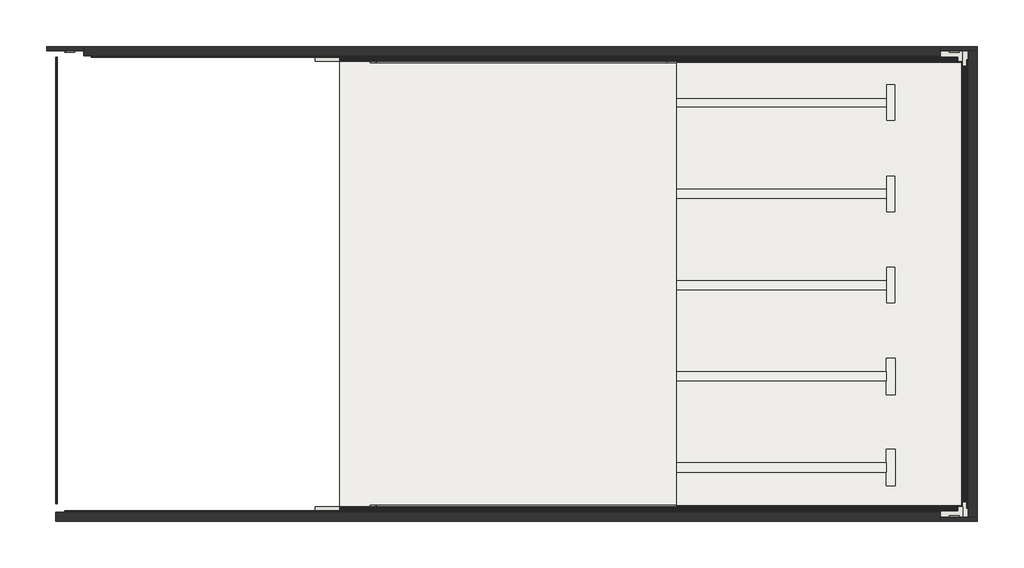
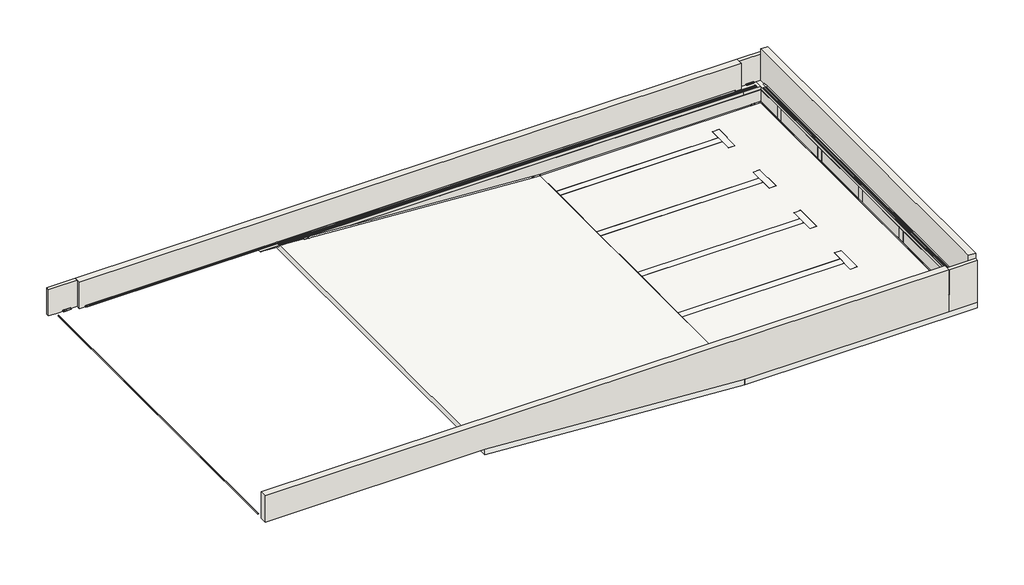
# One storey: 47 slabs, 24 walls.
"""IFC4 building model written with IfcOpenShell, lengths in millimetres."""

from ifc_helpers import new_model, si_unit, frame, origin, place, context, project, spatial, polyline, outline, extrude, faceted_brep, transform, mapped, element, save
from components import slab_adf7b20b, slab_e6a2a24a, slab_c61dfdfc, slab_3fa4a234, slab_2e8b4356, slab_f294360b, slab_5cd8baa9, slab_5a0b4e5f, slab_672f7bec, slab_ea4350df, slab_515da62f, slab_ee71dc46, slab_7202c741, pieza_112_aqua_azul_liso_81c370b3, pieza_112_aqua_azul_liso_8ca1fe8c, pieza_112_aqua_azul_liso_9920d825, pieza_112_aqua_azul_liso_90a9ab43, pieza_112_aqua_azul_liso_9cfd9824, pieza_112_aqua_azul_liso_4210b536, pieza_112_aqua_azul_liso_95a1ca5b, pieza_112_aqua_azul_liso_0d17003f, pieza_112_aqua_azul_liso_7a75cb70, pieza_112_aqua_azul_liso_f3ba676e, pieza_112_aqua_azul_liso_4e644e74, pieza_112_aqua_azul_liso_36658c12, pieza_112_aqua_azul_liso_4123cb8f, pieza_112_aqua_azul_liso_9b5f858b, pieza_112_aqua_azul_liso_815341f7, pieza_112_aqua_azul_liso_8a560736, pieza_112_aqua_azul_liso_735dd935, pieza_112_aqua_azul_liso_746ee73a, pieza_112_aqua_azul_liso_ccd9703d, pieza_112_aqua_azul_liso_ba36763c, pieza_112_aqua_azul_liso_4afd4aa3

model = new_model("IFC4")

# Units and contexts
model_context = context("Model", 3, world=origin())
ifc_project = project(units=[si_unit("LENGTHUNIT", "METRE", prefix="MILLI")], contexts=[model_context])

# Site, building, storey
site = spatial("IfcSite", under=ifc_project)
building = spatial("IfcBuilding", under=site)
storey = spatial("IfcBuildingStorey", under=building, Name="4_NFondo2 -1.8", Elevation=-1800.4)

# Slabs
placement = place(None, origin())
element("IfcSlab", 1, ObjectType="GENÉRICO_LOSA PISCINA_Estructura_20 cm", at=placement, inside=storey, context=model_context, shape_type="SweptSolid", body=[
    extrude(outline(polyline([(-1410.8230402, 15209.434436), (-2010.8230402, 24429.434436), (-1810.4, 24429.434436), (-1210.4, 15209.434436), (-1410.8230402, 15209.434436)])), frame((0.0, -38448.7332692, 0.0), z_axis=(0.0, 1.0, 0.0), x_axis=(0.0, 0.0, 1.0)), (0.0, 0.0, 1.0), 13018.6046614),
])
element("IfcSlab", 2, ObjectType="GENÉRICO_LOSA PISCINA_Estructura_20 cm", at=placement, inside=storey, context=model_context, shape_type="SweptSolid", body=[
    extrude(outline(polyline([(24429.434436, -25430.1286078), (32688.734436, -25430.1286078), (32688.734436, -38448.7332692), (24429.434436, -38448.7332692), (24429.434436, -25430.1286078)])), frame((0.0, 0.0, -2010.4), z_axis=(0.0, 0.0, 1.0), x_axis=(1.0, 0.0, 0.0)), (0.0, 0.0, 1.0), 200.0),
])
element("IfcSlab", 3, ObjectType="Pieza 122 G1_Patrón Recto_Aqua_Azul_Liso", at=placement, inside=storey, context=model_context, shape_type="SweptSolid", body=[
    extrude(outline(polyline([(24440.434436, -37094.4598578), (30190.434436, -37094.4598578), (30190.434436, -37469.4598578), (30440.434436, -37469.4598578), (30440.434436, -36469.4598578), (30190.434436, -36469.4598578), (30190.434436, -36844.4598578), (24440.434436, -36844.4598578), (24440.434436, -34594.477587), (30190.434436, -34594.477587), (30190.434436, -34969.477587), (30440.434436, -34969.477587), (30440.434436, -33969.477587), (30190.434436, -33969.477587), (30190.434436, -34344.477587), (24440.434436, -34344.477587), (24440.434436, -32094.477587), (30190.434436, -32094.477587), (30190.434436, -32469.477587), (30440.434436, -32469.477587), (30440.434436, -31469.477587), (30190.434436, -31469.477587), (30190.434436, -31844.477587), (24440.434436, -31844.477587), (24440.434436, -29594.4598578), (30190.434436, -29594.4598578), (30190.434436, -29969.4598578), (30440.434436, -29969.4598578), (30440.434436, -28969.4598578), (30190.434436, -28969.4598578), (30190.434436, -29344.4598578), (24440.434436, -29344.4598578), (24440.434436, -27094.4598578), (30190.434436, -27094.4598578), (30190.434436, -27469.4598578), (30440.434436, -27469.4598578), (30440.434436, -26469.4598578), (30190.434436, -26469.4598578), (30190.434436, -26844.4598578), (24440.434436, -26844.4598578), (24440.434436, -25867.6080096), (32251.2841759, -25867.6080096), (32251.2841759, -38011.2585288), (24440.434436, -38011.2585288), (24440.434436, -37094.4598578)])), frame((0.0, 0.0, -1809.4), z_axis=(0.0, 0.0, 1.0), x_axis=(1.0, 0.0, 0.0)), (0.0, 0.0, 1.0), 9.0),
])
element("IfcSlab", 4, ObjectType="Pieza 122 G1_Patrón Recto_Aqua_Marino_Liso", at=placement, inside=storey, context=model_context, shape_type="SweptSolid", body=[
    extrude(outline(polyline([(30190.434436, -26844.4598578), (30190.434436, -27094.4598578), (24439.880421, -27094.4598578), (24439.880421, -26844.4598578), (30190.434436, -26844.4598578)])), frame((0.0, 0.0, -1809.4), z_axis=(0.0, 0.0, 1.0), x_axis=(1.0, 0.0, 0.0)), (0.0, 0.0, 1.0), 9.0),
])
element("IfcSlab", 5, ObjectType="Pieza 122 G1_Patrón Recto_Aqua_Marino_Liso", at=placement, inside=storey, context=model_context, shape_type="SweptSolid", body=[
    extrude(outline(polyline([(30440.434436, -26469.4598578), (30440.434436, -27469.4598578), (30190.434436, -27469.4598578), (30190.434436, -26469.4598578), (30440.434436, -26469.4598578)])), frame((0.0, 0.0, -1809.4), z_axis=(0.0, 0.0, 1.0), x_axis=(1.0, 0.0, 0.0)), (0.0, 0.0, 1.0), 9.0),
])
element("IfcSlab", 6, ObjectType="Pieza 122 G1_Patrón Recto_Aqua_Marino_Liso", at=placement, inside=storey, context=model_context, shape_type="SweptSolid", body=[
    extrude(outline(polyline([(30190.434436, -29344.4598578), (30190.434436, -29594.4598578), (24439.880421, -29594.4598578), (24439.880421, -29344.4598578), (30190.434436, -29344.4598578)])), frame((0.0, 0.0, -1809.4), z_axis=(0.0, 0.0, 1.0), x_axis=(1.0, 0.0, 0.0)), (0.0, 0.0, 1.0), 9.0),
])
element("IfcSlab", 7, ObjectType="Pieza 122 G1_Patrón Recto_Aqua_Marino_Liso", at=placement, inside=storey, context=model_context, shape_type="SweptSolid", body=[
    extrude(outline(polyline([(30440.434436, -28969.4598578), (30440.434436, -29969.4598578), (30190.434436, -29969.4598578), (30190.434436, -28969.4598578), (30440.434436, -28969.4598578)])), frame((0.0, 0.0, -1809.4), z_axis=(0.0, 0.0, 1.0), x_axis=(1.0, 0.0, 0.0)), (0.0, 0.0, 1.0), 9.0),
])
element("IfcSlab", 8, ObjectType="Pieza 122 G1_Patrón Recto_Aqua_Marino_Liso", at=placement, inside=storey, context=model_context, shape_type="SweptSolid", body=[
    extrude(outline(polyline([(30190.434436, -31844.477587), (30190.434436, -32094.477587), (24439.880421, -32094.477587), (24439.880421, -31844.477587), (30190.434436, -31844.477587)])), frame((0.0, 0.0, -1809.4), z_axis=(0.0, 0.0, 1.0), x_axis=(1.0, 0.0, 0.0)), (0.0, 0.0, 1.0), 9.0),
])
element("IfcSlab", 9, ObjectType="Pieza 122 G1_Patrón Recto_Aqua_Marino_Liso", at=placement, inside=storey, context=model_context, shape_type="SweptSolid", body=[
    extrude(outline(polyline([(30440.434436, -31469.477587), (30440.434436, -32469.477587), (30190.434436, -32469.477587), (30190.434436, -31469.477587), (30440.434436, -31469.477587)])), frame((0.0, 0.0, -1809.4), z_axis=(0.0, 0.0, 1.0), x_axis=(1.0, 0.0, 0.0)), (0.0, 0.0, 1.0), 9.0),
])
element("IfcSlab", 10, ObjectType="Pieza 122 G1_Patrón Recto_Aqua_Marino_Liso", at=placement, inside=storey, context=model_context, shape_type="SweptSolid", body=[
    extrude(outline(polyline([(30190.434436, -34344.477587), (30190.434436, -34594.477587), (24439.880421, -34594.477587), (24439.880421, -34344.477587), (30190.434436, -34344.477587)])), frame((0.0, 0.0, -1809.4), z_axis=(0.0, 0.0, 1.0), x_axis=(1.0, 0.0, 0.0)), (0.0, 0.0, 1.0), 9.0),
])
element("IfcSlab", 11, ObjectType="Pieza 122 G1_Patrón Recto_Aqua_Marino_Liso", at=placement, inside=storey, context=model_context, shape_type="SweptSolid", body=[
    extrude(outline(polyline([(30440.434436, -33969.477587), (30440.434436, -34969.477587), (30190.434436, -34969.477587), (30190.434436, -33969.477587), (30440.434436, -33969.477587)])), frame((0.0, 0.0, -1809.4), z_axis=(0.0, 0.0, 1.0), x_axis=(1.0, 0.0, 0.0)), (0.0, 0.0, 1.0), 9.0),
])
element("IfcSlab", 12, ObjectType="Pieza 122 G1_Patrón Recto_Aqua_Marino_Liso", at=placement, inside=storey, context=model_context, shape_type="SweptSolid", body=[
    extrude(outline(polyline([(30190.434436, -36844.4598578), (30190.434436, -37094.4598578), (24439.880421, -37094.4598578), (24439.880421, -36844.4598578), (30190.434436, -36844.4598578)])), frame((0.0, 0.0, -1809.4), z_axis=(0.0, 0.0, 1.0), x_axis=(1.0, 0.0, 0.0)), (0.0, 0.0, 1.0), 9.0),
])
element("IfcSlab", 13, ObjectType="Pieza 122 G1_Patrón Recto_Aqua_Marino_Liso", at=placement, inside=storey, context=model_context, shape_type="SweptSolid", body=[
    extrude(outline(polyline([(30440.434436, -36469.4598578), (30440.434436, -37469.4598578), (30190.434436, -37469.4598578), (30190.434436, -36469.4598578), (30440.434436, -36469.4598578)])), frame((0.0, 0.0, -1809.4), z_axis=(0.0, 0.0, 1.0), x_axis=(1.0, 0.0, 0.0)), (0.0, 0.0, 1.0), 9.0),
])
slab_shape = slab_adf7b20b(model_context)
element("IfcSlab", 14, ObjectType="ROSA GRES_003 : Pieza 003_Aqua_Marino_Anti-Slip", at=placement, inside=storey, context=model_context, shape_type="MappedRepresentation", body=[
    mapped(slab_shape, transform((32279.434436, -25964.4919001, -1210.4), x_axis=(0.0, -1.0, 0.0), y_axis=(1.0, 0.0, 0.0), z_axis=(0.0, 0.0, 1.0))),
])
slab_2_shape = slab_e6a2a24a(model_context)
element("IfcSlab", 15, ObjectType="ROSA GRES_112 : Pieza 112_Aqua_Marino_Liso", at=placement, inside=storey, context=model_context, shape_type="MappedRepresentation", body=[
    mapped(slab_2_shape, transform((31913.028186, -25550.6236308, -1210.5), x_axis=(1.0, 0.0, 0.0), y_axis=(0.0, 1.0, 0.0), z_axis=(0.0, 0.0, 1.0))),
])
slab_3_shape = slab_c61dfdfc(model_context)
element("IfcSlab", 16, ObjectType="ROSA GRES_003 : Pieza 003_Aqua_Marino_Anti-Slip", at=placement, inside=storey, context=model_context, shape_type="MappedRepresentation", body=[
    mapped(slab_3_shape, transform((15209.434436, -25839.4332692, -1210.4), x_axis=(1.0, 0.0, 0.0), y_axis=(0.0, 1.0, 0.0), z_axis=(0.0, 0.0, 1.0))),
])
slab_4_shape = slab_3fa4a234(model_context)
element("IfcSlab", 17, ObjectType="ROSA GRES_112 : Pieza 112_Aqua_Marino_Liso", at=placement, inside=storey, context=model_context, shape_type="MappedRepresentation", body=[
    mapped(slab_4_shape, transform((15209.4610246, -25679.4598578, -1210.5), x_axis=(1.0, 0.0, 0.0), y_axis=(0.0, 1.0, 0.0), z_axis=(0.0, 0.0, 1.0))),
])
slab_5_shape = slab_2e8b4356(model_context)
element("IfcSlab", 18, ObjectType="ROSA GRES_112 : Pieza 112_Aqua_Marino_Liso", at=placement, inside=storey, context=model_context, shape_type="MappedRepresentation", body=[
    mapped(slab_5_shape, transform((31913.028186, -38328.2429076, -1210.5), x_axis=(1.0, 0.0, 0.0), y_axis=(0.0, 1.0, 0.0), z_axis=(0.0, 0.0, 1.0))),
])
slab_6_shape = slab_f294360b(model_context)
element("IfcSlab", 19, ObjectType="ROSA GRES_112 : Pieza 112_Aqua_Marino_Liso", at=placement, inside=storey, context=model_context, shape_type="MappedRepresentation", body=[
    mapped(slab_6_shape, transform((31465.9578735, -38199.4066807, -1210.5), x_axis=(-1.0, 0.0, 0.0), y_axis=(0.0, -1.0, 0.0), z_axis=(0.0, 0.0, 1.0))),
])
slab_7_shape = slab_5cd8baa9(model_context)
element("IfcSlab", 20, ObjectType="ROSA GRES_112 : Pieza 112_Aqua_Marino_Liso", at=placement, inside=storey, context=model_context, shape_type="MappedRepresentation", body=[
    mapped(slab_7_shape, transform((32439.4078475, -25969.4598578, -1210.5), x_axis=(0.0, -1.0, 0.0), y_axis=(1.0, 0.0, 0.0), z_axis=(0.0, 0.0, 1.0))),
])
slab_8_shape = slab_5a0b4e5f(model_context)
element("IfcSlab", 21, ObjectType="ROSA GRES_112 : Pieza 112_Aqua_Marino_Liso", at=placement, inside=storey, context=model_context, shape_type="MappedRepresentation", body=[
    mapped(slab_8_shape, transform((32439.4078475, -25793.9986308, -1210.5), x_axis=(0.0, -1.0, 0.0), y_axis=(1.0, 0.0, 0.0), z_axis=(0.0, 0.0, 1.0))),
])
slab_9_shape = slab_672f7bec(model_context)
element("IfcSlab", 22, ObjectType="ROSA GRES_112 : Pieza 112_Aqua_Marino_Liso", at=placement, inside=storey, context=model_context, shape_type="MappedRepresentation", body=[
    mapped(slab_9_shape, transform((32439.4078475, -38084.726651, -1210.5), x_axis=(0.0, 1.0, 0.0), y_axis=(-1.0, 0.0, 0.0), z_axis=(0.0, 0.0, 1.0))),
])
slab_10_shape = slab_ea4350df(model_context)
element("IfcSlab", 23, ObjectType="ROSA GRES_003 : Pieza 003_Aqua_Marino_Anti-Slip", at=placement, inside=storey, context=model_context, shape_type="MappedRepresentation", body=[
    mapped(slab_10_shape, transform((15458.8319419, -38039.4332692, -1210.4), x_axis=(-1.0, 0.0, 0.0), y_axis=(0.0, -1.0, 0.0), z_axis=(0.0, 0.0, 1.0))),
])
slab_11_shape = slab_515da62f(model_context)
element("IfcSlab", 24, ObjectType="ROSA GRES_003 : Pieza 003_Aqua_Marino_Anti-Slip", at=placement, inside=storey, context=model_context, shape_type="MappedRepresentation", body=[
    mapped(slab_11_shape, transform((31940.2395386, -38039.4332692, -1210.4), x_axis=(1.0, 0.0, 0.0), y_axis=(0.0, 1.0, 0.0), z_axis=(0.0, 0.0, 1.0))),
])
slab_12_shape = slab_ee71dc46(model_context)
element("IfcSlab", 25, ObjectType="ROSA GRES_003 : Pieza 003_Aqua_Marino_Anti-Slip", at=placement, inside=storey, context=model_context, shape_type="MappedRepresentation", body=[
    mapped(slab_12_shape, transform((24440.2395386, -38039.4332692, -1210.4), x_axis=(-1.0, 0.0, 0.0), y_axis=(0.0, -1.0, 0.0), z_axis=(0.0, 0.0, 1.0))),
])
slab_13_shape = slab_7202c741(model_context)
element("IfcSlab", 26, ObjectType="ROSA GRES_003 : Pieza 003_Aqua_Marino_Anti-Slip", at=placement, inside=storey, context=model_context, shape_type="MappedRepresentation", body=[
    mapped(slab_13_shape, transform((24440.2395386, -38039.4332692, -1210.4), x_axis=(1.0, 0.0, 0.0), y_axis=(0.0, 1.0, 0.0), z_axis=(0.0, 0.0, 1.0))),
])
pieza_112_aqua_azul_liso_shape = pieza_112_aqua_azul_liso_81c370b3(model_context)
element("IfcSlab", 27, ObjectType="ROSA GRES_112 (corte) : Pieza 112_Aqua_Azul_Liso", at=placement, inside=storey, context=model_context, shape_type="MappedRepresentation", body=[
    mapped(pieza_112_aqua_azul_liso_shape, transform((32047.7841759, -38051.2585288, -1810.4), x_axis=(1.0, 0.0, 0.0), y_axis=(0.0, 1.0, 0.0), z_axis=(0.0, 0.0, 1.0))),
])
pieza_112_aqua_azul_liso_2_shape = pieza_112_aqua_azul_liso_8ca1fe8c(model_context)
element("IfcSlab", 28, ObjectType="ROSA GRES_112 (corte) : Pieza 112_Aqua_Azul_Liso", at=placement, inside=storey, context=model_context, shape_type="MappedRepresentation", body=[
    mapped(pieza_112_aqua_azul_liso_2_shape, transform((32047.8107645, -25827.6080096, -1810.4), x_axis=(1.0, 0.0, 0.0), y_axis=(0.0, 1.0, 0.0), z_axis=(0.0, 0.0, 1.0))),
])
pieza_112_aqua_azul_liso_3_shape = pieza_112_aqua_azul_liso_9920d825(model_context)
element("IfcSlab", 29, ObjectType="ROSA GRES_112 : Pieza 112_Aqua_Azul_Liso", at=placement, inside=storey, context=model_context, shape_type="MappedRepresentation", body=[
    mapped(pieza_112_aqua_azul_liso_3_shape, transform((7662.9610246, -25550.6236308, -1210.5), x_axis=(1.0, 0.0, 0.0), y_axis=(0.0, 1.0, 0.0), z_axis=(0.0, 0.0, 1.0))),
])
pieza_112_aqua_azul_liso_4_shape = pieza_112_aqua_azul_liso_90a9ab43(model_context)
element("IfcSlab", 30, ObjectType="ROSA GRES_112 : Pieza 112_Aqua_Azul_Liso", at=placement, inside=storey, context=model_context, shape_type="MappedRepresentation", body=[
    mapped(pieza_112_aqua_azul_liso_4_shape, transform((7419.4610246, -37969.4598578, -1210.4), x_axis=(0.0, 1.0, 0.0), y_axis=(-1.0, 0.0, 0.0), z_axis=(0.0, 0.0, 1.0))),
])
pieza_112_aqua_azul_liso_5_shape = pieza_112_aqua_azul_liso_9cfd9824(model_context)
element("IfcSlab", 31, ObjectType="ROSA GRES_112 : Pieza 112_Aqua_Azul_Liso", at=placement, inside=storey, context=model_context, shape_type="MappedRepresentation", body=[
    mapped(pieza_112_aqua_azul_liso_5_shape, transform((8459.434436, -25679.4598578, -1210.4), x_axis=(1.0, 0.0, 0.0), y_axis=(0.0, 1.0, 0.0), z_axis=(0.0, 0.0, 1.0))),
])
pieza_112_aqua_azul_liso_6_shape = pieza_112_aqua_azul_liso_4210b536(model_context)
element("IfcSlab", 32, ObjectType="ROSA GRES_112 : Pieza 112_Aqua_Azul_Liso", at=placement, inside=storey, context=model_context, shape_type="MappedRepresentation", body=[
    mapped(pieza_112_aqua_azul_liso_6_shape, transform((16046.8310424, -25827.6080096, -1264.8943562), x_axis=(0.9978892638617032, 0.0, -0.06493856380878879), y_axis=(0.0, 1.0, 0.0), z_axis=(0.06493856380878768, 0.0, 0.9978892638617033))),
])
pieza_112_aqua_azul_liso_7_shape = pieza_112_aqua_azul_liso_95a1ca5b(model_context)
element("IfcSlab", 33, ObjectType="ROSA GRES_112 : Pieza 112_Aqua_Azul_Liso", at=placement, inside=storey, context=model_context, shape_type="MappedRepresentation", body=[
    mapped(pieza_112_aqua_azul_liso_7_shape, transform((24189.6074355, -25827.6080096, -1794.7930368), x_axis=(-0.9978892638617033, 0.0, 0.0649385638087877), y_axis=(0.0, -1.0, 0.0), z_axis=(0.06493856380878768, 0.0, 0.9978892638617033))),
])
pieza_112_aqua_azul_liso_8_shape = pieza_112_aqua_azul_liso_0d17003f(model_context)
element("IfcSlab", 34, ObjectType="ROSA GRES_112 : Pieza 112_Aqua_Azul_Liso", at=placement, inside=storey, context=model_context, shape_type="MappedRepresentation", body=[
    mapped(pieza_112_aqua_azul_liso_8_shape, transform((24440.2027963, -25827.6080096, -1811.100761), x_axis=(-0.9978892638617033, 0.0, 0.06493856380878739), y_axis=(0.0, -1.0, 0.0), z_axis=(0.06493856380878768, 0.0, 0.9978892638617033))),
])
pieza_112_aqua_azul_liso_9_shape = pieza_112_aqua_azul_liso_7a75cb70(model_context)
element("IfcSlab", 35, ObjectType="ROSA GRES_112 : Pieza 112_Aqua_Azul_Liso", at=placement, inside=storey, context=model_context, shape_type="MappedRepresentation", body=[
    mapped(pieza_112_aqua_azul_liso_9_shape, transform((16047.1422245, -38051.2585288, -1264.9146066), x_axis=(0.9978892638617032, 0.0, -0.06493856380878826), y_axis=(0.0, 1.0, 0.0), z_axis=(0.06493856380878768, 0.0, 0.9978892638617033))),
])
pieza_112_aqua_azul_liso_10_shape = pieza_112_aqua_azul_liso_f3ba676e(model_context)
element("IfcSlab", 36, ObjectType="ROSA GRES_112 : Pieza 112_Aqua_Azul_Liso", at=placement, inside=storey, context=model_context, shape_type="MappedRepresentation", body=[
    mapped(pieza_112_aqua_azul_liso_10_shape, transform((16206.8058246, -38051.2585288, -1275.2845264), x_axis=(0.9978892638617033, 0.0, -0.06493856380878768), y_axis=(0.0, 1.0, 0.0), z_axis=(0.06493856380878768, 0.0, 0.9978892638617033))),
])
pieza_112_aqua_azul_liso_11_shape = pieza_112_aqua_azul_liso_4e644e74(model_context)
element("IfcSlab", 37, ObjectType="ROSA GRES_112 : Pieza 112_Aqua_Azul_Liso", at=placement, inside=storey, context=model_context, shape_type="MappedRepresentation", body=[
    mapped(pieza_112_aqua_azul_liso_11_shape, transform((31940.2395386, -38051.2585288, -1810.4), x_axis=(-1.0, 0.0, 0.0), y_axis=(0.0, -1.0, 0.0), z_axis=(0.0, 0.0, 1.0))),
])
pieza_112_aqua_azul_liso_12_shape = pieza_112_aqua_azul_liso_36658c12(model_context)
element("IfcSlab", 38, ObjectType="ROSA GRES_112 : Pieza 112_Aqua_Azul_Liso", at=placement, inside=storey, context=model_context, shape_type="MappedRepresentation", body=[
    mapped(pieza_112_aqua_azul_liso_12_shape, transform((32047.8736681, -38051.2585288, -1810.4), x_axis=(-1.0, 0.0, 0.0), y_axis=(0.0, -1.0, 0.0), z_axis=(0.0, 0.0, 1.0))),
])
pieza_112_aqua_azul_liso_13_shape = pieza_112_aqua_azul_liso_4123cb8f(model_context)
element("IfcSlab", 39, ObjectType="ROSA GRES_112 : Pieza 112_Aqua_Azul_Liso", at=placement, inside=storey, context=model_context, shape_type="MappedRepresentation", body=[
    mapped(pieza_112_aqua_azul_liso_13_shape, transform((31940.434436, -25827.6080096, -1810.4), x_axis=(1.0, 0.0, 0.0), y_axis=(0.0, 1.0, 0.0), z_axis=(0.0, 0.0, 1.0))),
])
pieza_112_aqua_azul_liso_14_shape = pieza_112_aqua_azul_liso_9b5f858b(model_context)
element("IfcSlab", 40, ObjectType="ROSA GRES_112 : Pieza 112_Aqua_Azul_Liso", at=placement, inside=storey, context=model_context, shape_type="MappedRepresentation", body=[
    mapped(pieza_112_aqua_azul_liso_14_shape, transform((31940.434436, -25827.6080096, -1810.4), x_axis=(-1.0, 0.0, 0.0), y_axis=(0.0, -1.0, 0.0), z_axis=(0.0, 0.0, 1.0))),
])
pieza_112_aqua_azul_liso_15_shape = pieza_112_aqua_azul_liso_815341f7(model_context)
element("IfcSlab", 41, ObjectType="ROSA GRES_112 (corte) : Pieza 112_Aqua_Azul_Liso", at=placement, inside=storey, context=model_context, shape_type="MappedRepresentation", body=[
    mapped(pieza_112_aqua_azul_liso_15_shape, transform((32291.2841759, -25969.4598578, -1810.4), x_axis=(0.0, 1.0, 0.0), y_axis=(-1.0, 0.0, 0.0), z_axis=(0.0, 0.0, 1.0))),
])
pieza_112_aqua_azul_liso_16_shape = pieza_112_aqua_azul_liso_8a560736(model_context)
element("IfcSlab", 42, ObjectType="ROSA GRES_112 (corte) : Pieza 112_Aqua_Azul_Liso", at=placement, inside=storey, context=model_context, shape_type="MappedRepresentation", body=[
    mapped(pieza_112_aqua_azul_liso_16_shape, transform((32291.2841759, -37844.4585288, -1810.4), x_axis=(0.0, -1.0, 0.0), y_axis=(1.0, 0.0, 0.0), z_axis=(0.0, 0.0, 1.0))),
])
pieza_112_aqua_azul_liso_17_shape = pieza_112_aqua_azul_liso_735dd935(model_context)
element("IfcSlab", 43, ObjectType="ROSA GRES_112 : Pieza 112_Aqua_Azul_Liso", at=placement, inside=storey, context=model_context, shape_type="MappedRepresentation", body=[
    mapped(pieza_112_aqua_azul_liso_17_shape, transform((32291.2841759, -25969.4598578, -1810.4), x_axis=(0.0, -1.0, 0.0), y_axis=(1.0, 0.0, 0.0), z_axis=(0.0, 0.0, 1.0))),
])
pieza_112_aqua_azul_liso_18_shape = pieza_112_aqua_azul_liso_746ee73a(model_context)
element("IfcSlab", 44, ObjectType="ROSA GRES_112 : Pieza 112_Aqua_Azul_Liso", at=placement, inside=storey, context=model_context, shape_type="MappedRepresentation", body=[
    mapped(pieza_112_aqua_azul_liso_18_shape, transform((7967.5429054, -38199.4066807, -1210.4), x_axis=(1.0, 0.0, 0.0), y_axis=(0.0, 1.0, 0.0), z_axis=(0.0, 0.0, 1.0))),
])
pieza_112_aqua_azul_liso_19_shape = pieza_112_aqua_azul_liso_ccd9703d(model_context)
element("IfcSlab", 45, ObjectType="ROSA GRES_112 : Pieza 112_Aqua_Azul_Liso", at=placement, inside=storey, context=model_context, shape_type="MappedRepresentation", body=[
    mapped(pieza_112_aqua_azul_liso_19_shape, transform((7967.5429054, -38199.4066807, -1210.4), x_axis=(-1.0, 0.0, 0.0), y_axis=(0.0, -1.0, 0.0), z_axis=(0.0, 0.0, 1.0))),
])
pieza_112_aqua_azul_liso_20_shape = pieza_112_aqua_azul_liso_ba36763c(model_context)
element("IfcSlab", 46, ObjectType="ROSA GRES_112 : Pieza 112_Aqua_Azul_Liso", at=placement, inside=storey, context=model_context, shape_type="MappedRepresentation", body=[
    mapped(pieza_112_aqua_azul_liso_20_shape, transform((8392.887561, -25679.4598578, -1210.4), x_axis=(1.0, 0.0, 0.0), y_axis=(0.0, 1.0, 0.0), z_axis=(0.0, 0.0, 1.0))),
])
pieza_112_aqua_azul_liso_21_shape = pieza_112_aqua_azul_liso_4afd4aa3(model_context)
element("IfcSlab", 47, ObjectType="ROSA GRES_112 : Pieza 112_Aqua_Azul_Liso", at=placement, inside=storey, context=model_context, shape_type="MappedRepresentation", body=[
    mapped(pieza_112_aqua_azul_liso_21_shape, transform((7709.4610246, -25550.6236308, -1210.5), x_axis=(1.0, 0.0, 0.0), y_axis=(0.0, 1.0, 0.0), z_axis=(0.0, 0.0, 1.0))),
])

# Walls
element("IfcWall", 48, ObjectType="Pieza 122 G1_Patrón Recto_Aqua_Azul_Liso", at=placement, inside=storey, context=model_context, shape_type="SweptSolid", body=[
    extrude(outline(polyline([(-1770.4, 32281.3107645), (-1335.4, 32281.3107645), (-1335.4, 17724.4803716), (-1770.4, 24430.7303716), (-1770.4, 32281.3107645)])), frame((0.0, -25837.5814211, 0.0), z_axis=(0.0, 1.0, 0.0), x_axis=(0.0, 0.0, 1.0)), (0.0, 0.0, 1.0), 9.0),
])
element("IfcWall", 49, ObjectType="Pieza 122 G1_Patrón Recto_Aqua_Azul_Liso", at=placement, inside=storey, context=model_context, shape_type="SweptSolid", body=[
    extrude(outline(polyline([(32281.3107645, -26844.4598578), (32281.3107645, -25837.5814211), (32290.3107645, -25837.5814211), (32290.3107645, -26844.4598578), (32281.3107645, -26844.4598578)])), frame((0.0, 0.0, -1770.4), z_axis=(0.0, 0.0, 1.0), x_axis=(1.0, 0.0, 0.0)), (0.0, 0.0, 1.0), 435.0),
])
element("IfcWall", 50, ObjectType="Pieza 122 G1_Patrón Recto_Aqua_Azul_Liso", at=placement, inside=storey, context=model_context, shape_type="SweptSolid", body=[
    extrude(outline(polyline([(-1770.4, 32281.3107645), (-1335.4, 32281.3107645), (-1335.4, 17746.2345794), (-1770.4, 24430.7345794), (-1770.4, 32281.3107645)])), frame((0.0, -38050.2851174, 0.0), z_axis=(0.0, 1.0, 0.0), x_axis=(0.0, 0.0, 1.0)), (0.0, 0.0, 1.0), 9.0),
])
element("IfcWall", 51, ObjectType="Pieza 122 G1_Patrón Recto_Aqua_Marino_Liso", at=placement, inside=storey, context=model_context, shape_type="SweptSolid", body=[
    extrude(outline(polyline([(32281.3107645, -27094.4598578), (32281.3107645, -26844.4598578), (32290.3107645, -26844.4598578), (32290.3107645, -27094.4598578), (32281.3107645, -27094.4598578)])), frame((0.0, 0.0, -1770.4), z_axis=(0.0, 0.0, 1.0), x_axis=(1.0, 0.0, 0.0)), (0.0, 0.0, 1.0), 435.0),
])
element("IfcWall", 52, ObjectType="Pieza 122 G1_Patrón Recto_Aqua_Azul_Liso", at=placement, inside=storey, context=model_context, shape_type="SweptSolid", body=[
    extrude(outline(polyline([(32281.3107645, -29344.4598578), (32281.3107645, -27094.4598578), (32290.3107645, -27094.4598578), (32290.3107645, -29344.4598578), (32281.3107645, -29344.4598578)])), frame((0.0, 0.0, -1770.4), z_axis=(0.0, 0.0, 1.0), x_axis=(1.0, 0.0, 0.0)), (0.0, 0.0, 1.0), 435.0),
])
element("IfcWall", 53, ObjectType="Pieza 122 G1_Patrón Recto_Aqua_Marino_Liso", at=placement, inside=storey, context=model_context, shape_type="SweptSolid", body=[
    extrude(outline(polyline([(32281.3107645, -29594.4598578), (32281.3107645, -29344.4598578), (32290.3107645, -29344.4598578), (32290.3107645, -29594.4598578), (32281.3107645, -29594.4598578)])), frame((0.0, 0.0, -1770.4), z_axis=(0.0, 0.0, 1.0), x_axis=(1.0, 0.0, 0.0)), (0.0, 0.0, 1.0), 435.0),
])
element("IfcWall", 54, ObjectType="Pieza 122 G1_Patrón Recto_Aqua_Azul_Liso", at=placement, inside=storey, context=model_context, shape_type="SweptSolid", body=[
    extrude(outline(polyline([(32281.3107645, -31844.4598578), (32281.3107645, -29594.4598578), (32290.3107645, -29594.4598578), (32290.3107645, -31844.4598578), (32281.3107645, -31844.4598578)])), frame((0.0, 0.0, -1770.4), z_axis=(0.0, 0.0, 1.0), x_axis=(1.0, 0.0, 0.0)), (0.0, 0.0, 1.0), 435.0),
])
element("IfcWall", 55, ObjectType="Pieza 122 G1_Patrón Recto_Aqua_Marino_Liso", at=placement, inside=storey, context=model_context, shape_type="SweptSolid", body=[
    extrude(outline(polyline([(32281.3107645, -32094.4598578), (32281.3107645, -31844.4598578), (32290.3107645, -31844.4598578), (32290.3107645, -32094.4598578), (32281.3107645, -32094.4598578)])), frame((0.0, 0.0, -1770.4), z_axis=(0.0, 0.0, 1.0), x_axis=(1.0, 0.0, 0.0)), (0.0, 0.0, 1.0), 435.0),
])
element("IfcWall", 56, ObjectType="Pieza 122 G1_Patrón Recto_Aqua_Azul_Liso", at=placement, inside=storey, context=model_context, shape_type="SweptSolid", body=[
    extrude(outline(polyline([(32281.3107645, -34344.4598578), (32281.3107645, -32094.4598578), (32290.3107645, -32094.4598578), (32290.3107645, -34344.4598578), (32281.3107645, -34344.4598578)])), frame((0.0, 0.0, -1770.4), z_axis=(0.0, 0.0, 1.0), x_axis=(1.0, 0.0, 0.0)), (0.0, 0.0, 1.0), 435.0),
])
element("IfcWall", 57, ObjectType="Pieza 122 G1_Patrón Recto_Aqua_Marino_Liso", at=placement, inside=storey, context=model_context, shape_type="SweptSolid", body=[
    extrude(outline(polyline([(32281.3107645, -34594.4598578), (32281.3107645, -34344.4598578), (32290.3107645, -34344.4598578), (32290.3107645, -34594.4598578), (32281.3107645, -34594.4598578)])), frame((0.0, 0.0, -1770.4), z_axis=(0.0, 0.0, 1.0), x_axis=(1.0, 0.0, 0.0)), (0.0, 0.0, 1.0), 435.0),
])
element("IfcWall", 58, ObjectType="Pieza 122 G1_Patrón Recto_Aqua_Azul_Liso", at=placement, inside=storey, context=model_context, shape_type="SweptSolid", body=[
    extrude(outline(polyline([(32281.3107645, -36844.4598578), (32281.3107645, -34594.4598578), (32290.3107645, -34594.4598578), (32290.3107645, -36844.4598578), (32281.3107645, -36844.4598578)])), frame((0.0, 0.0, -1770.4), z_axis=(0.0, 0.0, 1.0), x_axis=(1.0, 0.0, 0.0)), (0.0, 0.0, 1.0), 435.0),
])
element("IfcWall", 59, ObjectType="Pieza 122 G1_Patrón Recto_Aqua_Marino_Liso", at=placement, inside=storey, context=model_context, shape_type="SweptSolid", body=[
    extrude(outline(polyline([(32281.3107645, -37094.4598578), (32281.3107645, -36844.4598578), (32290.3107645, -36844.4598578), (32290.3107645, -37094.4598578), (32281.3107645, -37094.4598578)])), frame((0.0, 0.0, -1770.4), z_axis=(0.0, 0.0, 1.0), x_axis=(1.0, 0.0, 0.0)), (0.0, 0.0, 1.0), 435.0),
])
element("IfcWall", 60, ObjectType="Pieza 122 G1_Patrón Recto_Aqua_Azul_Liso", at=placement, inside=storey, context=model_context, shape_type="SweptSolid", body=[
    extrude(outline(polyline([(32281.3107645, -38041.2851174), (32281.3107645, -37094.4598578), (32290.3107645, -37094.4598578), (32290.3107645, -38041.2851174), (32281.3107645, -38041.2851174)])), frame((0.0, 0.0, -1770.4), z_axis=(0.0, 0.0, 1.0), x_axis=(1.0, 0.0, 0.0)), (0.0, 0.0, 1.0), 435.0),
])
element("IfcWall", 61, ObjectType="GENÉRICO_MURO CONTENCIÓN PISCINA_Estructura_12 cm", at=placement, inside=storey, context=model_context, shape_type="Brep", body=[
    faceted_brep([(31669.4610246, -25550.1286078, -1810.4), (32438.434436, -25550.1286078, -1810.4), (32688.734436, -25550.1286078, -1810.4), (32688.734436, -25550.1286078, -229.4), (31669.4610246, -25550.1286078, -229.4), (31669.4610246, -25430.1286078, -1810.4), (31669.4610246, -25430.1286078, -229.4), (32688.734436, -25430.1286078, -229.4), (32688.734436, -25430.1286078, -1810.4)], [[[0, 1, 2, 3, 4]], [[5, 6, 7, 8]], [[2, 1, 0, 5, 8]], [[4, 3, 7, 6]], [[0, 4, 6, 5]], [[3, 2, 8, 7]]]),
])
element("IfcWall", 62, ObjectType="GENÉRICO_MURO CONTENCIÓN PISCINA_Estructura_12 cm", at=placement, inside=storey, context=model_context, shape_type="Brep", body=[
    faceted_brep([(31674.934436, -38448.7851174, -1810.4), (32688.734436, -38448.7851174, -1810.4), (32688.734436, -38448.7851174, -227.6460892), (31679.434436, -38448.7851174, -227.6460892), (31679.434436, -38448.7851174, -1170.4), (31674.934436, -38448.7851174, -1170.4), (31674.934436, -38328.7851174, -1810.4), (31674.934436, -38328.7851174, -1170.4), (31679.434436, -38328.7851174, -1170.4), (31679.434436, -38328.7851174, -227.6460892), (32688.734436, -38328.7851174, -227.6460892), (32688.734436, -38328.7851174, -1810.4), (32438.434436, -38328.7851174, -1810.4)], [[[0, 1, 2, 3, 4, 5]], [[6, 7, 8, 9, 10, 11, 12]], [[1, 0, 6, 12, 11]], [[3, 2, 10, 9]], [[2, 1, 11, 10]], [[0, 5, 7, 6]], [[4, 8, 7, 5]], [[3, 9, 8, 4]]]),
])
element("IfcWall", 63, ObjectType="GENÉRICO_MURO CONTENCIÓN PISCINA_Estructura_14.82 cm", at=placement, inside=storey, context=model_context, shape_type="SweptSolid", body=[
    extrude(outline(polyline([(-1810.4, 31674.934436), (-1210.4, 31674.934436), (-1210.4, 14535.0509232), (-1810.4, 23766.0509232), (-1810.4, 31674.934436)])), frame((0.0, -38198.4851174, 0.0), z_axis=(0.0, 1.0, 0.0), x_axis=(0.0, 0.0, 1.0)), (0.0, 0.0, 1.0), 148.2),
])
element("IfcWall", 64, ObjectType="GENÉRICO_MURO CONTENCIÓN PISCINA_Estructura_14.82 cm", at=placement, inside=storey, context=model_context, shape_type="SweptSolid", body=[
    extrude(outline(polyline([(-1810.4, 31669.4610246), (-1210.4, 31669.4610246), (-1210.4, 14529.5775118), (-1810.4, 23760.5775118), (-1810.4, 31669.4610246)])), frame((0.0, -25828.5814211, 0.0), z_axis=(0.0, 1.0, 0.0), x_axis=(0.0, 0.0, 1.0)), (0.0, 0.0, 1.0), 148.2),
])
element("IfcWall", 65, ObjectType="GENÉRICO_MURO CONTENCIÓN PISCINA_Estructura_14.82 cm", at=placement, inside=storey, context=model_context, shape_type="Brep", body=[
    faceted_brep([(32290.3107645, -25551.0814211, -1810.4), (32290.3107645, -25828.5814211, -1810.4), (32290.3107645, -38050.2851174, -1810.4), (32290.3107645, -38327.7851174, -1810.4), (32290.3107645, -38327.7851174, -1210.4), (32290.3107645, -38050.2851174, -1210.4), (32290.3107645, -25828.5814211, -1210.4), (32290.3107645, -25551.0814211, -1210.4), (32438.5107645, -25551.0814211, -1810.4), (32438.5107645, -25551.0814211, -1210.4), (32438.5107645, -38327.7851174, -1210.4), (32438.5107645, -38327.7851174, -1810.4)], [[[0, 1, 2, 3, 4, 5, 6, 7]], [[8, 9, 10, 11]], [[3, 2, 1, 0, 8, 11]], [[7, 6, 5, 4, 10, 9]], [[0, 7, 9, 8]], [[4, 3, 11, 10]]]),
])
element("IfcWall", 66, ObjectType="GENÉRICO_MURO CONTENCIÓN PISCINA_Estructura_12 cm", at=placement, inside=storey, context=model_context, shape_type="Brep", body=[
    faceted_brep([(7169.1610246, -25550.1286078, -1210.4), (7419.4610246, -25550.1286078, -1210.4), (8189.4078475, -25550.1286078, -1210.4), (8189.4078475, -25550.1286078, -229.4), (7419.4610246, -25550.1286078, -229.4), (7169.1610246, -25550.1286078, -229.4), (7169.1610246, -25430.1286078, -1210.4), (7169.1610246, -25430.1286078, -229.4), (8189.4078475, -25430.1286078, -229.4), (8189.4078475, -25430.1286078, -1210.4)], [[[0, 1, 2, 3, 4, 5]], [[6, 7, 8, 9]], [[3, 2, 9, 8]], [[5, 4, 3, 8, 7]], [[0, 5, 7, 6]], [[2, 1, 0, 6, 9]]]),
])
element("IfcWall", 67, ObjectType="GENÉRICO_MURO CONTENCIÓN PISCINA_Estructura_25cm", at=placement, inside=storey, context=model_context, shape_type="Brep", body=[
    faceted_brep([(8189.4078475, -25680.4286078, -1210.4), (15209.434436, -25680.4286078, -1210.4), (24429.434436, -25680.4286078, -1810.4), (31669.4610246, -25680.4286078, -1810.4), (31669.4610246, -25680.4286078, -229.4), (8189.4078475, -25680.4286078, -229.4), (8189.4078475, -25430.1286078, -1210.4), (8189.4078475, -25430.1286078, -229.4), (31669.4610246, -25430.1286078, -229.4), (31669.4610246, -25430.1286078, -1810.4), (24429.434436, -25430.1286078, -1810.4), (15209.434436, -25430.1286078, -1210.4), (31669.4610246, -25550.1286078, -1810.4), (31669.4610246, -25550.1286078, -229.4), (8189.4078475, -25550.1286078, -229.4), (8189.4078475, -25550.1286078, -1210.4)], [[[0, 1, 2, 3, 4, 5]], [[6, 7, 8, 9, 10, 11]], [[4, 3, 12, 9, 8, 13]], [[5, 4, 13, 8, 7, 14]], [[0, 5, 14, 7, 6, 15]], [[1, 0, 15, 6, 11]], [[3, 2, 10, 9, 12]], [[2, 1, 11, 10]]]),
])
element("IfcWall", 68, ObjectType="GENÉRICO_MURO CONTENCIÓN PISCINA_Estructura_25cm", at=placement, inside=storey, context=model_context, shape_type="Brep", body=[
    faceted_brep([(7419.4610246, -38448.7332692, -1210.4), (15209.434436, -38448.7332692, -1210.4), (24429.434436, -38448.7332692, -1810.4), (31674.934436, -38448.7332692, -1810.4), (31674.934436, -38448.7332692, -1170.4), (31670.434436, -38448.7332692, -1170.4), (31670.434436, -38448.7332692, -229.4), (7419.4610246, -38448.7332692, -229.4), (7419.4610246, -38198.4332692, -1210.4), (7419.4610246, -38198.4332692, -229.4), (31670.434436, -38198.4332692, -229.4), (31670.434436, -38198.4332692, -1170.4), (31674.934436, -38198.4332692, -1170.4), (31674.934436, -38198.4332692, -1810.4), (24429.434436, -38198.4332692, -1810.4), (15209.434436, -38198.4332692, -1210.4), (31674.934436, -38328.7851174, -1810.4), (31674.934436, -38328.7851174, -1170.4)], [[[0, 1, 2, 3, 4, 5, 6, 7]], [[8, 9, 10, 11, 12, 13, 14, 15]], [[7, 6, 10, 9]], [[4, 3, 16, 13, 12, 17]], [[11, 5, 4, 17, 12]], [[6, 5, 11, 10]], [[0, 7, 9, 8]], [[1, 0, 8, 15]], [[3, 2, 14, 13, 16]], [[2, 1, 15, 14]]]),
])
element("IfcWall", 69, ObjectType="GENÉRICO_MURO CONTENCIÓN PISCINA_Estructura_25cm", at=placement, inside=storey, context=model_context, shape_type="Brep", body=[
    faceted_brep([(32688.734436, -38328.7851174, -1810.4), (32688.734436, -25550.1286078, -1810.4), (32688.734436, -25550.1286078, -229.4), (32688.734436, -25550.1286078, -37.4), (32688.734436, -38328.7851174, -37.4), (32688.734436, -38328.7851174, -227.6460892), (32438.434436, -38328.7851174, -1810.4), (32438.434436, -38328.7851174, -37.4), (32438.434436, -25550.1286078, -37.4), (32438.434436, -25550.1286078, -1810.4)], [[[0, 1, 2, 3, 4, 5]], [[6, 7, 8, 9]], [[1, 0, 6, 9]], [[4, 3, 8, 7]], [[3, 2, 1, 9, 8]], [[0, 5, 4, 7, 6]]]),
])
element("IfcWall", 70, ObjectType="GENÉRICO_MURO CONTENCIÓN PISCINA_Estructura_27.75 cm", at=placement, inside=storey, context=model_context, shape_type="Brep", body=[
    faceted_brep([(31669.4610246, -25828.5814211, -1810.4), (32290.3107645, -25828.5814211, -1810.4), (32290.3107645, -25828.5814211, -1210.4), (31669.4610246, -25828.5814211, -1210.4), (31669.4610246, -25551.0814211, -1810.4), (31669.4610246, -25551.0814211, -1210.4), (32290.3107645, -25551.0814211, -1210.4), (32290.3107645, -25551.0814211, -1810.4), (31669.4610246, -25680.3814211, -1810.4), (31669.4610246, -25680.3814211, -1210.4)], [[[0, 1, 2, 3]], [[4, 5, 6, 7]], [[1, 0, 8, 4, 7]], [[3, 2, 6, 5, 9]], [[0, 3, 9, 5, 4, 8]], [[2, 1, 7, 6]]]),
])
element("IfcWall", 71, ObjectType="GENÉRICO_MURO CONTENCIÓN PISCINA_Estructura_27.75 cm", at=placement, inside=storey, context=model_context, shape_type="Brep", body=[
    faceted_brep([(31674.934436, -38327.7851174, -1810.4), (32290.3107645, -38327.7851174, -1810.4), (32290.3107645, -38327.7851174, -1210.4), (31674.934436, -38327.7851174, -1210.4), (31674.934436, -38050.2851174, -1810.4), (31674.934436, -38050.2851174, -1210.4), (32290.3107645, -38050.2851174, -1210.4), (32290.3107645, -38050.2851174, -1810.4), (31674.934436, -38198.4851174, -1810.4), (31674.934436, -38198.4851174, -1210.4)], [[[0, 1, 2, 3]], [[4, 5, 6, 7]], [[1, 0, 8, 4, 7]], [[3, 2, 6, 5, 9]], [[0, 3, 9, 5, 4, 8]], [[2, 1, 7, 6]]]),
])

save(model, "model.ifc")
